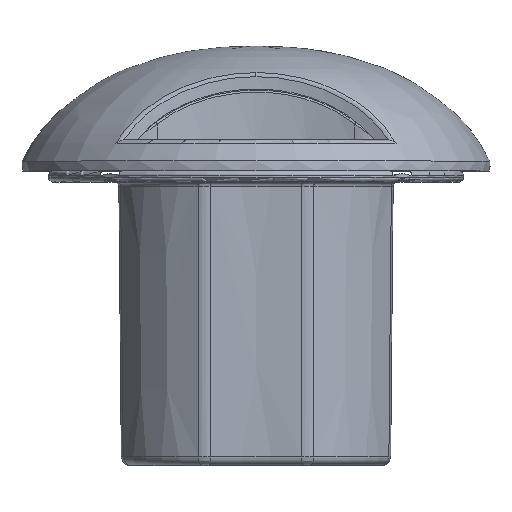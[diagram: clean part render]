
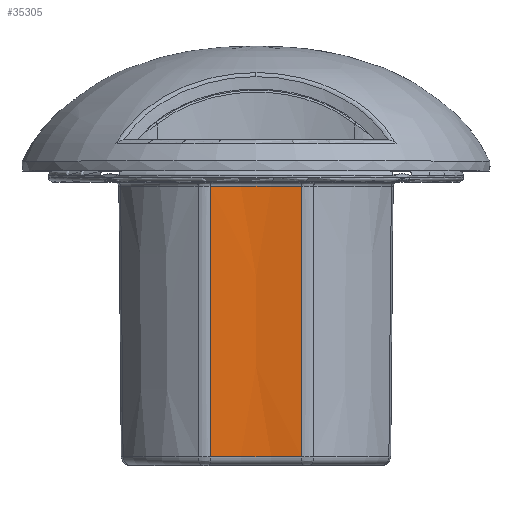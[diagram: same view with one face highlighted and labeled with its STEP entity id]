
A CAD part, top view. The second image highlights one B-rep face of the part: STEP entity #35305.
In plain terms, the highlighted conical face has half-angle 0.5 degrees and reference radius 68.573 mm.
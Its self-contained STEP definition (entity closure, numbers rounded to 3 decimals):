
#24891=CARTESIAN_POINT('',(0.,-6.491,
98.221));
#24892=DIRECTION('',(0.,-1.,0.));
#24893=DIRECTION('',(-0.15,0.,-0.989));
#24894=AXIS2_PLACEMENT_3D('',#24891,#24892,#24893);
#24896=CARTESIAN_POINT('',(10.245,-6.491,
30.685));
#24897=CARTESIAN_POINT('',(10.24,-11.107,
30.644));
#24898=CARTESIAN_POINT('',(10.231,-20.505,
30.559));
#24899=CARTESIAN_POINT('',(10.217,-34.929,
30.43));
#24900=CARTESIAN_POINT('',(10.201,-50.185,
30.293));
#24901=CARTESIAN_POINT('',(10.19,-61.274,
30.194));
#24902=CARTESIAN_POINT('',(10.184,-67.017,
30.142));
#24904=CARTESIAN_POINT('',(0.,-67.017,
98.221));
#24905=DIRECTION('',(0.,-1.,0.));
#24906=DIRECTION('',(-0.148,0.,-0.989));
#24907=AXIS2_PLACEMENT_3D('',#24904,#24905,#24906);
#24909=CARTESIAN_POINT('',(-10.184,-67.017,
30.142));
#24910=CARTESIAN_POINT('',(-10.189,-62.401,
30.183));
#24911=CARTESIAN_POINT('',(-10.198,-53.001,
30.268));
#24912=CARTESIAN_POINT('',(-10.213,-38.563,
30.397));
#24913=CARTESIAN_POINT('',(-10.228,-23.305,
30.534));
#24914=CARTESIAN_POINT('',(-10.239,-12.227,
30.634));
#24915=CARTESIAN_POINT('',(-10.245,-6.491,
30.685));
#25144=CARTESIAN_POINT('',(-10.245,-6.491,
30.685));
#25157=CARTESIAN_POINT('',(-10.184,-67.017,
30.142));
#29171=VERTEX_POINT('',#25157);
#29174=CARTESIAN_POINT('',(10.184,-67.017,
30.142));
#29175=VERTEX_POINT('',#29174);
#29876=VERTEX_POINT('',#25144);
#29878=CARTESIAN_POINT('',(10.245,-6.491,
30.685));
#29879=VERTEX_POINT('',#29878);
#35290=CARTESIAN_POINT('',(0.,-36.754,
98.221));
#35291=DIRECTION('',(0.,-1.,0.));
#35292=DIRECTION('',(0.,0.,-1.));
#35293=AXIS2_PLACEMENT_3D('',#35290,#35291,#35292);
#35294=CONICAL_SURFACE('',#35293,68.573,0.5);
#35296=ORIENTED_EDGE('',*,*,#35295,.T.);
#35298=ORIENTED_EDGE('',*,*,#35297,.T.);
#35300=ORIENTED_EDGE('',*,*,#35299,.F.);
#35302=ORIENTED_EDGE('',*,*,#35301,.T.);
#35303=EDGE_LOOP('',(#35296,#35298,#35300,#35302));
#35304=FACE_OUTER_BOUND('',#35303,.F.);
#35305=ADVANCED_FACE('',(#35304),#35294,.F.);
#24895=CIRCLE('',#24894,68.309);
#24903=B_SPLINE_CURVE_WITH_KNOTS('',3,(#24896,#24897,#24898,#24899,#24900,
#24901,#24902),.UNSPECIFIED.,.F.,.F.,(4,1,1,1,4),(0.,0.25,0.5,0.75,
1.),.UNSPECIFIED.);
#24908=CIRCLE('',#24907,68.837);
#24916=B_SPLINE_CURVE_WITH_KNOTS('',3,(#24909,#24910,#24911,#24912,#24913,
#24914,#24915),.UNSPECIFIED.,.F.,.F.,(4,1,1,1,4),(0.,0.25,0.5,0.75,
1.),.UNSPECIFIED.);
#35295=EDGE_CURVE('',#29876,#29879,#24895,.T.);
#35297=EDGE_CURVE('',#29879,#29175,#24903,.T.);
#35299=EDGE_CURVE('',#29171,#29175,#24908,.T.);
#35301=EDGE_CURVE('',#29171,#29876,#24916,.T.);
